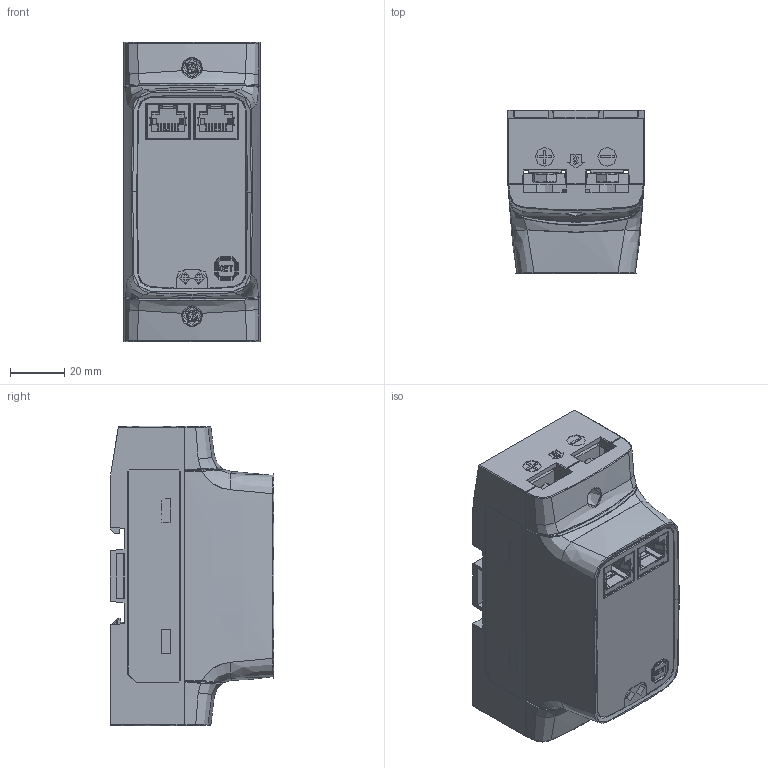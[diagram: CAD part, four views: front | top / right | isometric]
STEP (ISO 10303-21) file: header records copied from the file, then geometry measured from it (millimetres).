
FILE_DESCRIPTION(/* description */ (''),/* implementation_level */ '2;1');
FILE_NAME(/* name */ 'AZ7JT0~2',/* time_stamp */ '2021-09-24T11:08:19+09:00',/* author */ (''),/* organization */ (''),/* preprocessor_version */ 'ST-DEVELOPER v15',/* originating_system */ '',/* authorisation */ '');
FILE_SCHEMA (('AUTOMOTIVE_DESIGN'));
Products named in the file (37): Document; 블록 27; 블록 29; 블록 30; 블록 31; 블록 06; DTC_2350_1P_3F_60A_-20200410; 블록 05; Hook; 블록 12; Bus-Bar; 블록 13; hexagon head bolt (grade a)_ks_KS 1002 A - M5 x 10 x 10-N; 블록 14; Case-Bottom1; insert M3X10; 블록 10; insert M5x12.8; 블록 26; Case-Bottom; 블록 23; spring; 블록 38; Window; 블록 08; Case-Top; 블록 04; Button; 블록 16; M3X15; 블록 39; Cover-C; 블록 15; Spec-Sticker; 블록 19; Caution-Sticker; 블록 37
Assembly tree (50 placements, depth 4):
  Document
    블록 27  x2
    블록 29  x2
    블록 30  x2
    블록 31  x2
    블록 06
    DTC_2350_1P_3F_60A_-20200410
      블록 05
    Hook
      블록 12
    Bus-Bar  x2
      블록 13
    hexagon head bolt (grade a)_ks_KS 1002 A - M5 x 10 x 10-N  x4
      블록 14
    Case-Bottom1
      insert M3X10  x2
        블록 10
      insert M5x12.8  x4
        블록 26
      Case-Bottom
        블록 23
    spring
      블록 38
    Window
      블록 08
    Case-Top
      블록 04
    Button
      블록 16
    M3X15  x2
      블록 39
    Cover-C  x2
      블록 15
    Spec-Sticker
      블록 19
    Caution-Sticker
      블록 37
Bounding box: 50 x 60.02 x 110 mm (x, y, z)
Surface area: 108915.7 mm2 (no closed solid volume)
Topology: 0 solids, 3416 shells, 3424 faces, 18778 edges, 18740 vertices
Faces by surface type: plane 2309, bspline 1115
Entity records: 193630 total; most frequent: CARTESIAN_POINT 100676, ORIENTED_EDGE 17204, EDGE_CURVE 17188, VERTEX_POINT 17172, B_SPLINE_CURVE_WITH_KNOTS 14800, EDGE_LOOP 3268, ADVANCED_FACE 3101, FACE_OUTER_BOUND 3101
